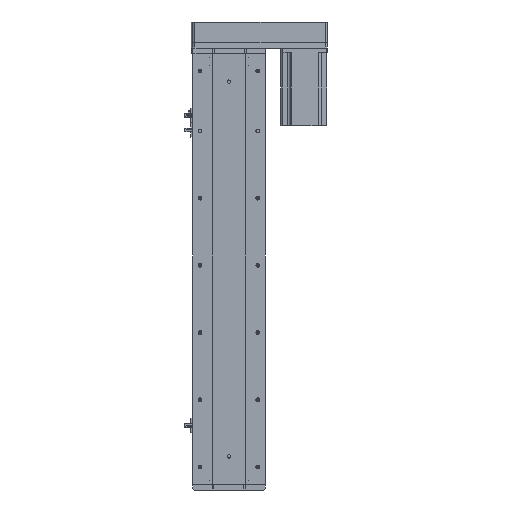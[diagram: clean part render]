
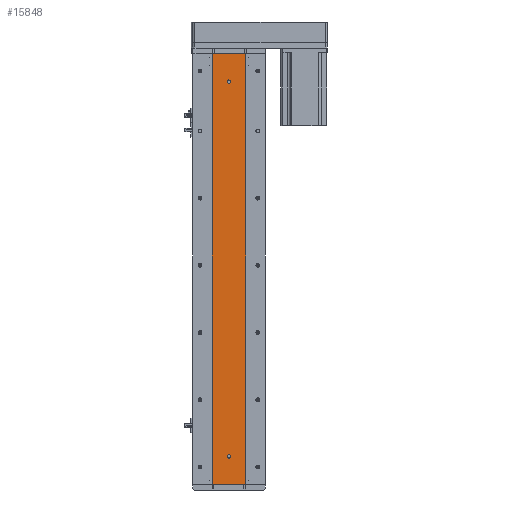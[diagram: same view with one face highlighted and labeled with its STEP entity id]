
A CAD part, left-side view. The second image highlights one B-rep face of the part: STEP entity #15848.
In plain terms, the highlighted planar face has unit normal (-1, 0, 0).
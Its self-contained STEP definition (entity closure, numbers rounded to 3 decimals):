
#1160 = ORIENTED_EDGE ( 'NONE', *, *, #38269, .F. ) ;
#2013 = VERTEX_POINT ( 'NONE', #34666 ) ;
#2715 = EDGE_CURVE ( 'NONE', #6571, #15275, #12476, .T. ) ;
#2867 = DIRECTION ( 'NONE',  ( 0., 0., -1. ) ) ;
#3412 = CARTESIAN_POINT ( 'NONE',  ( -24.994, -29.785, 769. ) ) ;
#3497 = VERTEX_POINT ( 'NONE', #43584 ) ;
#3883 = CARTESIAN_POINT ( 'NONE',  ( -24.994, 0., 719. ) ) ;
#4561 = CARTESIAN_POINT ( 'NONE',  ( -24.994, 29.785, 769. ) ) ;
#5632 = CIRCLE ( 'NONE', #17929, 3. ) ;
#5818 = AXIS2_PLACEMENT_3D ( 'NONE', #26847, #6645, #30265 ) ;
#6523 = CARTESIAN_POINT ( 'NONE',  ( -24.994, 0., 47. ) ) ;
#6571 = VERTEX_POINT ( 'NONE', #4561 ) ;
#6645 = DIRECTION ( 'NONE',  ( -1., 0., 0. ) ) ;
#6798 = ORIENTED_EDGE ( 'NONE', *, *, #9526, .F. ) ;
#6985 = AXIS2_PLACEMENT_3D ( 'NONE', #15761, #39366, #37600 ) ;
#7261 = DIRECTION ( 'NONE',  ( 0., 0., 1. ) ) ;
#7945 = FACE_BOUND ( 'NONE', #17309, .T. ) ;
#8248 = CARTESIAN_POINT ( 'NONE',  ( -24.994, 0., 50. ) ) ;
#8320 = AXIS2_PLACEMENT_3D ( 'NONE', #35325, #15116, #38748 ) ;
#8892 = CIRCLE ( 'NONE', #43483, 3. ) ;
#8984 = FACE_BOUND ( 'NONE', #17835, .T. ) ;
#9102 = VECTOR ( 'NONE', #20792, 1000. ) ;
#9152 = VECTOR ( 'NONE', #2867, 1000. ) ;
#9346 = CIRCLE ( 'NONE', #6985, 3. ) ;
#9526 = EDGE_CURVE ( 'NONE', #2013, #11648, #9346, .T. ) ;
#10172 = LINE ( 'NONE', #41043, #9102 ) ;
#10312 = VERTEX_POINT ( 'NONE', #6523 ) ;
#10356 = VECTOR ( 'NONE', #32854, 1000. ) ;
#11648 = VERTEX_POINT ( 'NONE', #25855 ) ;
#11670 = DIRECTION ( 'NONE',  ( 0., 0., 1. ) ) ;
#12476 = LINE ( 'NONE', #24680, #29366 ) ;
#14505 = EDGE_CURVE ( 'NONE', #6571, #33204, #10172, .T. ) ;
#15116 = DIRECTION ( 'NONE',  ( 1., 0., 0. ) ) ;
#15275 = VERTEX_POINT ( 'NONE', #28293 ) ;
#15761 = CARTESIAN_POINT ( 'NONE',  ( -24.994, 0., 719. ) ) ;
#15848 = ADVANCED_FACE ( 'NONE', ( #7945, #8984, #25851 ), #18418, .F. ) ;
#16420 = EDGE_CURVE ( 'NONE', #30288, #10312, #8892, .T. ) ;
#17309 = EDGE_LOOP ( 'NONE', ( #6798, #29839 ) ) ;
#17835 = EDGE_LOOP ( 'NONE', ( #20418, #1160 ) ) ;
#17929 = AXIS2_PLACEMENT_3D ( 'NONE', #3883, #27477, #7261 ) ;
#18418 = PLANE ( 'NONE',  #8320 ) ;
#18672 = EDGE_LOOP ( 'NONE', ( #32329, #20709, #42938, #26920 ) ) ;
#20418 = ORIENTED_EDGE ( 'NONE', *, *, #16420, .F. ) ;
#20429 = LINE ( 'NONE', #29442, #10356 ) ;
#20649 = CARTESIAN_POINT ( 'NONE',  ( -24.994, 0., 53. ) ) ;
#20709 = ORIENTED_EDGE ( 'NONE', *, *, #23221, .F. ) ;
#20792 = DIRECTION ( 'NONE',  ( 0., -1., 0. ) ) ;
#23221 = EDGE_CURVE ( 'NONE', #33204, #3497, #26620, .T. ) ;
#24680 = CARTESIAN_POINT ( 'NONE',  ( -24.994, 29.785, 769. ) ) ;
#25851 = FACE_OUTER_BOUND ( 'NONE', #18672, .T. ) ;
#25855 = CARTESIAN_POINT ( 'NONE',  ( -24.994, 0., 716. ) ) ;
#26423 = CARTESIAN_POINT ( 'NONE',  ( -24.994, -29.785, 769. ) ) ;
#26620 = LINE ( 'NONE', #26423, #9152 ) ;
#26706 = EDGE_CURVE ( 'NONE', #15275, #3497, #20429, .T. ) ;
#26847 = CARTESIAN_POINT ( 'NONE',  ( -24.994, 0., 50. ) ) ;
#26920 = ORIENTED_EDGE ( 'NONE', *, *, #2715, .T. ) ;
#27477 = DIRECTION ( 'NONE',  ( -1., 0., 0. ) ) ;
#28293 = CARTESIAN_POINT ( 'NONE',  ( -24.994, 29.785, 0. ) ) ;
#29366 = VECTOR ( 'NONE', #31467, 1000. ) ;
#29442 = CARTESIAN_POINT ( 'NONE',  ( -24.994, 29.785, 0. ) ) ;
#29839 = ORIENTED_EDGE ( 'NONE', *, *, #41369, .F. ) ;
#30265 = DIRECTION ( 'NONE',  ( 0., 0., 1. ) ) ;
#30288 = VERTEX_POINT ( 'NONE', #20649 ) ;
#31467 = DIRECTION ( 'NONE',  ( 0., 0., -1. ) ) ;
#31869 = DIRECTION ( 'NONE',  ( -1., 0., 0. ) ) ;
#32329 = ORIENTED_EDGE ( 'NONE', *, *, #26706, .T. ) ;
#32854 = DIRECTION ( 'NONE',  ( 0., -1., 0. ) ) ;
#33204 = VERTEX_POINT ( 'NONE', #3412 ) ;
#34666 = CARTESIAN_POINT ( 'NONE',  ( -24.994, 0., 722. ) ) ;
#35325 = CARTESIAN_POINT ( 'NONE',  ( -24.994, 29.785, 769. ) ) ;
#37600 = DIRECTION ( 'NONE',  ( 0., 0., 1. ) ) ;
#38269 = EDGE_CURVE ( 'NONE', #10312, #30288, #42540, .T. ) ;
#38748 = DIRECTION ( 'NONE',  ( 0., 0., -1. ) ) ;
#39366 = DIRECTION ( 'NONE',  ( -1., 0., 0. ) ) ;
#41043 = CARTESIAN_POINT ( 'NONE',  ( -24.994, 29.785, 769. ) ) ;
#41369 = EDGE_CURVE ( 'NONE', #11648, #2013, #5632, .T. ) ;
#42540 = CIRCLE ( 'NONE', #5818, 3. ) ;
#42938 = ORIENTED_EDGE ( 'NONE', *, *, #14505, .F. ) ;
#43483 = AXIS2_PLACEMENT_3D ( 'NONE', #8248, #31869, #11670 ) ;
#43584 = CARTESIAN_POINT ( 'NONE',  ( -24.994, -29.785, 0. ) ) ;
